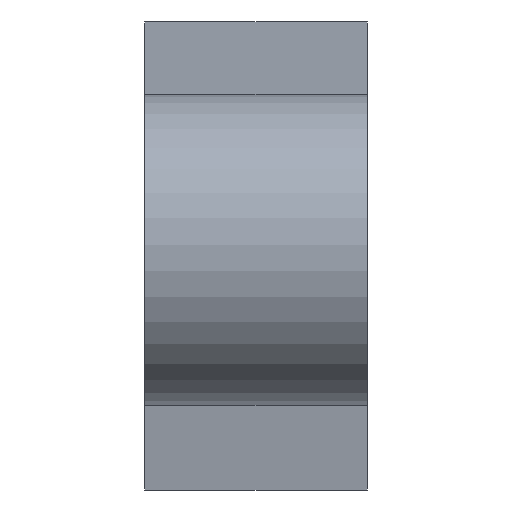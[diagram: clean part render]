
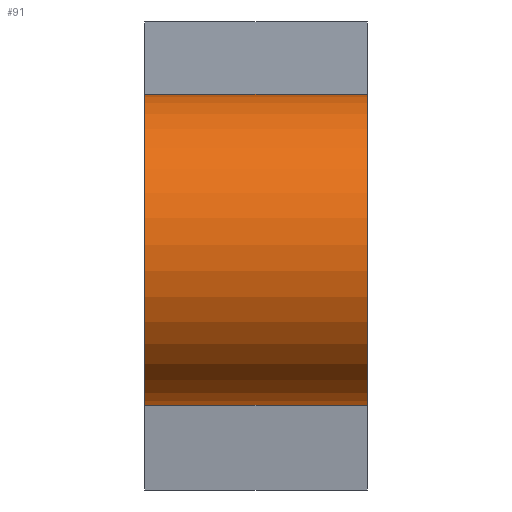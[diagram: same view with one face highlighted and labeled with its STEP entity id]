
A CAD part, front view. The second image highlights one B-rep face of the part: STEP entity #91.
In plain terms, the highlighted cylindrical face has radius 7 mm (diameter 14 mm), a partial arc.
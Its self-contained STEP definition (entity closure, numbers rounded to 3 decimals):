
#52=CARTESIAN_POINT('Axis2P3D Location',(5.,0.,0.)) ;
#57=CARTESIAN_POINT('Line Origine',(5.,0.,7.)) ;
#61=CARTESIAN_POINT('Vertex',(0.,0.,7.)) ;
#63=CARTESIAN_POINT('Vertex',(10.,0.,7.)) ;
#66=CARTESIAN_POINT('Axis2P3D Location',(0.,0.,0.)) ;
#70=CARTESIAN_POINT('Vertex',(0.,6.965,-0.7)) ;
#73=CARTESIAN_POINT('Line Origine',(5.,6.965,-0.7)) ;
#77=CARTESIAN_POINT('Vertex',(10.,6.965,-0.7)) ;
#80=CARTESIAN_POINT('Axis2P3D Location',(10.,0.,0.)) ;
#53=DIRECTION('Axis2P3D Direction',(1.,0.,0.)) ;
#54=DIRECTION('Axis2P3D XDirection',(0.,0.,1.)) ;
#58=DIRECTION('Vector Direction',(1.,0.,0.)) ;
#67=DIRECTION('Axis2P3D Direction',(1.,0.,0.)) ;
#74=DIRECTION('Vector Direction',(1.,0.,0.)) ;
#81=DIRECTION('Axis2P3D Direction',(1.,0.,0.)) ;
#55=AXIS2_PLACEMENT_3D('Cylinder Axis2P3D',#52,#53,#54) ;
#68=AXIS2_PLACEMENT_3D('Circle Axis2P3D',#66,#67,$) ;
#82=AXIS2_PLACEMENT_3D('Circle Axis2P3D',#80,#81,$) ;
#86=ORIENTED_EDGE('',*,*,#65,.F.) ;
#87=ORIENTED_EDGE('',*,*,#72,.T.) ;
#88=ORIENTED_EDGE('',*,*,#79,.T.) ;
#89=ORIENTED_EDGE('',*,*,#84,.F.) ;
#59=VECTOR('Line Direction',#58,1.) ;
#75=VECTOR('Line Direction',#74,1.) ;
#91=ADVANCED_FACE('Corps principal',(#90),#56,.T.) ;
#69=CIRCLE('generated circle',#68,7.) ;
#83=CIRCLE('generated circle',#82,7.) ;
#56=CYLINDRICAL_SURFACE('generated cylinder',#55,7.) ;
#65=EDGE_CURVE('',#62,#64,#60,.T.) ;
#72=EDGE_CURVE('',#62,#71,#69,.T.) ;
#79=EDGE_CURVE('',#71,#78,#76,.T.) ;
#84=EDGE_CURVE('',#64,#78,#83,.T.) ;
#85=EDGE_LOOP('',(#86,#87,#88,#89)) ;
#90=FACE_OUTER_BOUND('',#85,.T.) ;
#60=LINE('Line',#57,#59) ;
#76=LINE('Line',#73,#75) ;
#62=VERTEX_POINT('',#61) ;
#64=VERTEX_POINT('',#63) ;
#71=VERTEX_POINT('',#70) ;
#78=VERTEX_POINT('',#77) ;
